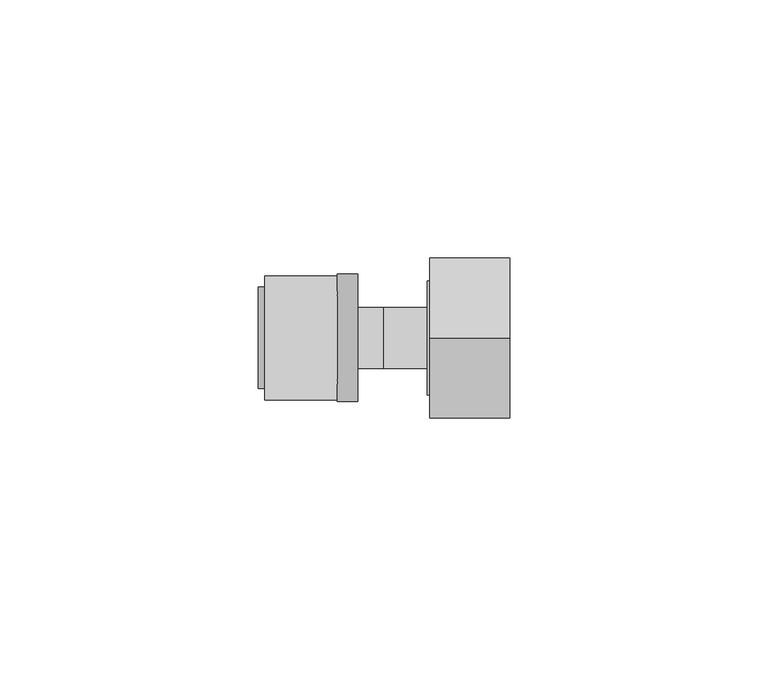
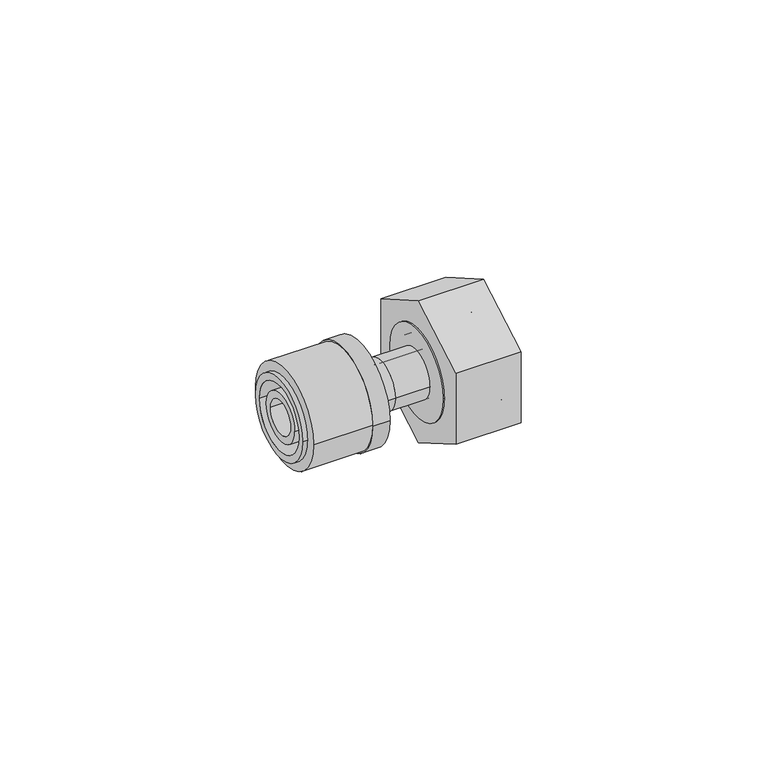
"""IFC4 building model written with IfcOpenShell, lengths in millimetres: pipe fitting geometry, FASTLOC_Adapter with union nut LX : FSL A union nut CZ."""

from ifc_helpers import new_model, si_unit, point, frame, origin, origin_2d, place, context, project, spatial, polyline, circle_curve, trimmed, segment, composite_curve, outline, extrude, source, transform, mapped, element, save
from ifc_brep_helpers import plane_surface, cylinder_surface, revolved_surface, advanced_brep


def pipe_fitting_ce7225c3(model_context):
    return source(origin(), model_context, "Body", "SolidModel", [
        extrude(outline(composite_curve([segment(trimmed(circle_curve(origin_2d(), 12.0), [point((12.0, 0.0))], [point((-12.0, 0.0))], False, "CARTESIAN"), True, "CONTINUOUS"), segment(trimmed(circle_curve(origin_2d(), 12.0), [point((-12.0, 0.0))], [point((12.0, 0.0))], False, "CARTESIAN"), True, "CONTINUOUS")], self_intersect=False), holes=[composite_curve([segment(trimmed(circle_curve(origin_2d(), 8.85), [point((8.85, 0.0))], [point((-8.85, 0.0))], True, "CARTESIAN"), True, "CONTINUOUS"), segment(trimmed(circle_curve(origin_2d(), 8.85), [point((-8.85, 0.0))], [point((8.85, 0.0))], True, "CARTESIAN"), True, "CONTINUOUS")], self_intersect=False)]), frame((-23.0, 0.0, 0.0), z_axis=(1.0, 0.0, 0.0), x_axis=(0.0, 1.0, 0.0)), (0.0, 0.0, 1.0), 14.0),
        advanced_brep(
        [(-9.0, -12.35, 0.0), (-9.0, 12.35, 0.0), (-5.0, 12.35, 0.0), (-5.0, -12.35, 0.0), (-24.3, -9.85, 0.0), (-24.3, 9.85, 0.0), (-9.0, 9.85, 0.0), (-9.0, -9.85, 0.0), (-5.0, -8.15, 0.0), (-5.0, 8.15, 0.0), (-24.3, 8.15, 0.0), (-24.3, -8.15, 0.0)],
        [
            (0, 1, circle_curve(frame((-9.0, 0.0, 0.0), z_axis=(1.0, 0.0, 0.0), x_axis=(0.0, 1.0, 0.0)), 12.35)),
            (1, 2),
            (2, 3, circle_curve(frame((-5.0, 0.0, 0.0), z_axis=(-1.0, 0.0, 0.0), x_axis=(0.0, 1.0, 0.0)), 12.35)),
            (3, 0),
            (4, 5, circle_curve(frame((-24.3, 0.0, 0.0), z_axis=(1.0, 0.0, 0.0), x_axis=(0.0, 1.0, 0.0)), 9.85)),
            (5, 6),
            (6, 7, circle_curve(frame((-9.0, 0.0, 0.0), z_axis=(-1.0, 0.0, 0.0), x_axis=(0.0, 1.0, 0.0)), 9.85)),
            (7, 4),
            (8, 9, circle_curve(frame((-5.0, 0.0, 0.0), z_axis=(1.0, 0.0, 0.0), x_axis=(0.0, 1.0, 0.0)), 8.15)),
            (9, 10),
            (10, 11, circle_curve(frame((-24.3, 0.0, 0.0), z_axis=(-1.0, 0.0, 0.0), x_axis=(0.0, 1.0, 0.0)), 8.15)),
            (11, 8),
            (1, 0, circle_curve(frame((-9.0, 0.0, 0.0), z_axis=(1.0, 0.0, 0.0), x_axis=(0.0, -1.0, 0.0)), 12.35)),
            (3, 2, circle_curve(frame((-5.0, 0.0, 0.0), z_axis=(-1.0, 0.0, 0.0), x_axis=(0.0, -1.0, 0.0)), 12.35)),
            (6, 7, circle_curve(frame((-9.0, 0.0, 0.0), z_axis=(1.0, 0.0, 0.0), x_axis=(0.0, -1.0, 0.0)), 9.85)),
            (5, 4, circle_curve(frame((-24.3, 0.0, 0.0), z_axis=(1.0, 0.0, 0.0), x_axis=(0.0, -1.0, 0.0)), 9.85)),
            (10, 11, circle_curve(frame((-24.3, 0.0, 0.0), z_axis=(1.0, 0.0, 0.0), x_axis=(0.0, -1.0, 0.0)), 8.15)),
            (9, 8, circle_curve(frame((-5.0, 0.0, 0.0), z_axis=(1.0, 0.0, 0.0), x_axis=(0.0, -1.0, 0.0)), 8.15)),
        ],
        [
            cylinder_surface(frame((-5.0, 0.0, 0.0), z_axis=(-1.0, 0.0, 0.0), x_axis=(0.0, 1.0, 0.0)), 12.35),
            cylinder_surface(frame((-5.0, 0.0, 0.0), z_axis=(-1.0, 0.0, 0.0), x_axis=(0.0, 1.0, 0.0)), 9.85),
            revolved_surface(polyline([(-24.3, 8.15, 0.0), (-5.0, 8.15, 0.0)]), (-5.0, 0.0, 0.0), (-1.0, 0.0, 0.0)),
            cylinder_surface(frame((-5.0, 0.0, 0.0), z_axis=(-1.0, 0.0, 0.0), x_axis=(0.0, -1.0, 0.0)), 12.35),
            plane_surface(frame((-9.0, 0.0, 0.0), z_axis=(-1.0, 0.0, 0.0), x_axis=(0.0, -1.0, 0.0))),
            cylinder_surface(frame((-5.0, 0.0, 0.0), z_axis=(-1.0, 0.0, 0.0), x_axis=(0.0, -1.0, 0.0)), 9.85),
            plane_surface(frame((-24.3, 0.0, 0.0), z_axis=(-1.0, 0.0, 0.0), x_axis=(0.0, -1.0, 0.0))),
            revolved_surface(polyline([(-24.3, -8.15, 0.0), (-5.0, -8.15, 0.0)]), (-5.0, 0.0, 0.0), (-1.0, 0.0, 0.0)),
            plane_surface(frame((-5.0, 0.0, 0.0), z_axis=(1.0, 0.0, 0.0), x_axis=(0.0, -1.0, 0.0))),
        ],
        [
            (0, [[1, 2, 3, 4]]),
            (1, [[5, 6, 7, 8]]),
            (2, [[9, 10, 11, 12]]),
            (3, [[13, -4, 14, -2]]),
            (4, [[-13, -1], [15, -7]]),
            (5, [[16, -8, -15, -6]]),
            (6, [[-16, -5], [17, -11]]),
            (7, [[18, -12, -17, -10]]),
            (8, [[-14, -3], [-18, -9]]),
        ],
    ),
        advanced_brep(
        [(-9.0, 5.9, 0.0), (-9.0, -5.9, 0.0), (-24.0, -5.9, 0.0), (-24.0, 5.9, 0.0), (-6.3, 6.9, 0.0), (-6.3, -6.9, 0.0), (-9.0, -6.9, 0.0), (-9.0, 6.9, 0.0), (0.0, 5.9, 0.0), (0.0, -5.9, 0.0), (-6.3, -5.9, 0.0), (-6.3, 5.9, 0.0), (-24.0, 4.15, 0.0), (-24.0, -4.15, 0.0), (0.0, -4.15, 0.0), (0.0, 4.15, 0.0)],
        [
            (0, 1, circle_curve(frame((-9.0, 0.0, 0.0), z_axis=(-1.0, 0.0, 0.0), x_axis=(0.0, -1.0, 0.0)), 5.9)),
            (1, 2),
            (2, 3, circle_curve(frame((-24.0, 0.0, 0.0), z_axis=(1.0, 0.0, 0.0), x_axis=(0.0, -1.0, 0.0)), 5.9)),
            (3, 0),
            (4, 5, circle_curve(frame((-6.3, 0.0, 0.0), z_axis=(-1.0, 0.0, 0.0), x_axis=(0.0, -1.0, 0.0)), 6.9)),
            (5, 6),
            (6, 7, circle_curve(frame((-9.0, 0.0, 0.0), z_axis=(1.0, 0.0, 0.0), x_axis=(0.0, -1.0, 0.0)), 6.9)),
            (7, 4),
            (8, 9, circle_curve(frame((0.0, 0.0, 0.0), z_axis=(-1.0, 0.0, 0.0), x_axis=(0.0, -1.0, 0.0)), 5.9)),
            (9, 10),
            (10, 11, circle_curve(frame((-6.3, 0.0, 0.0), z_axis=(1.0, 0.0, 0.0), x_axis=(0.0, -1.0, 0.0)), 5.9)),
            (11, 8),
            (12, 13, circle_curve(frame((-24.0, 0.0, 0.0), z_axis=(-1.0, 0.0, 0.0), x_axis=(0.0, -1.0, 0.0)), 4.15)),
            (13, 14),
            (14, 15, circle_curve(frame((0.0, 0.0, 0.0), z_axis=(1.0, 0.0, 0.0), x_axis=(0.0, -1.0, 0.0)), 4.15)),
            (15, 12),
            (2, 3, circle_curve(frame((-24.0, 0.0, 0.0), z_axis=(-1.0, 0.0, 0.0), x_axis=(0.0, 1.0, 0.0)), 5.9)),
            (12, 13, circle_curve(frame((-24.0, 0.0, 0.0), z_axis=(1.0, 0.0, 0.0), x_axis=(0.0, 1.0, 0.0)), 4.15)),
            (1, 0, circle_curve(frame((-9.0, 0.0, 0.0), z_axis=(-1.0, 0.0, 0.0), x_axis=(0.0, 1.0, 0.0)), 5.9)),
            (6, 7, circle_curve(frame((-9.0, 0.0, 0.0), z_axis=(-1.0, 0.0, 0.0), x_axis=(0.0, 1.0, 0.0)), 6.9)),
            (5, 4, circle_curve(frame((-6.3, 0.0, 0.0), z_axis=(-1.0, 0.0, 0.0), x_axis=(0.0, 1.0, 0.0)), 6.9)),
            (10, 11, circle_curve(frame((-6.3, 0.0, 0.0), z_axis=(-1.0, 0.0, 0.0), x_axis=(0.0, 1.0, 0.0)), 5.9)),
            (9, 8, circle_curve(frame((0.0, 0.0, 0.0), z_axis=(-1.0, 0.0, 0.0), x_axis=(0.0, 1.0, 0.0)), 5.9)),
            (14, 15, circle_curve(frame((0.0, 0.0, 0.0), z_axis=(-1.0, 0.0, 0.0), x_axis=(0.0, 1.0, 0.0)), 4.15)),
        ],
        [
            cylinder_surface(frame((0.0, 0.0, 0.0), z_axis=(1.0, 0.0, 0.0), x_axis=(0.0, -1.0, 0.0)), 5.9),
            cylinder_surface(frame((0.0, 0.0, 0.0), z_axis=(1.0, 0.0, 0.0), x_axis=(0.0, -1.0, 0.0)), 6.9),
            revolved_surface(polyline([(0.0, -4.15, 0.0), (-24.0, -4.15, 0.0)]), (0.0, 0.0, 0.0), (1.0, 0.0, 0.0)),
            plane_surface(frame((-24.0, 0.0, 0.0), z_axis=(-1.0, 0.0, 0.0), x_axis=(0.0, 1.0, 0.0))),
            cylinder_surface(frame((0.0, 0.0, 0.0), z_axis=(1.0, 0.0, 0.0), x_axis=(0.0, 1.0, 0.0)), 5.9),
            plane_surface(frame((-9.0, 0.0, 0.0), z_axis=(-1.0, 0.0, 0.0), x_axis=(0.0, 1.0, 0.0))),
            cylinder_surface(frame((0.0, 0.0, 0.0), z_axis=(1.0, 0.0, 0.0), x_axis=(0.0, 1.0, 0.0)), 6.9),
            plane_surface(frame((-6.3, 0.0, 0.0), z_axis=(1.0, 0.0, 0.0), x_axis=(0.0, 1.0, 0.0))),
            plane_surface(frame((0.0, 0.0, 0.0), z_axis=(1.0, 0.0, 0.0), x_axis=(0.0, 1.0, 0.0))),
            revolved_surface(polyline([(0.0, 4.15, 0.0), (-24.0, 4.15, 0.0)]), (0.0, 0.0, 0.0), (1.0, 0.0, 0.0)),
        ],
        [
            (0, [[1, 2, 3, 4]]),
            (1, [[5, 6, 7, 8]]),
            (0, [[9, 10, 11, 12]]),
            (2, [[13, 14, 15, 16]]),
            (3, [[17, -3], [18, -13]]),
            (4, [[19, -4, -17, -2]]),
            (5, [[20, -7], [-19, -1]]),
            (6, [[21, -8, -20, -6]]),
            (7, [[-21, -5], [22, -11]]),
            (4, [[23, -12, -22, -10]]),
            (8, [[-23, -9], [24, -15]]),
            (9, [[-18, -16, -24, -14]]),
        ],
    ),
        extrude(outline(polyline([(0.0, -17.8978583), (-15.5, -8.9489292), (-15.5, 8.9489292), (0.0, 17.8978583), (15.5, 8.9489292), (15.5, -8.9489292), (0.0, -17.8978583)]), holes=[composite_curve([segment(trimmed(circle_curve(origin_2d(), 8.15), [point((-8.15, 0.0))], [point((8.15, 0.0))], True, "CARTESIAN"), True, "CONTINUOUS"), segment(trimmed(circle_curve(origin_2d(), 8.15), [point((8.15, 0.0))], [point((-8.15, 0.0))], True, "CARTESIAN"), True, "CONTINUOUS")], self_intersect=False)]), frame((9.0, 0.0, 0.0), z_axis=(1.0, 0.0, 0.0), x_axis=(0.0, 1.0, 0.0)), (0.0, 0.0, 1.0), 15.5),
        advanced_brep(
        [(24.5, 11.05, 0.0), (24.5, -11.05, 0.0), (8.5, -11.05, 0.0), (8.5, 11.05, 0.0), (12.0, 8.15, 0.0), (12.0, -8.15, 0.0), (24.5, -8.15, 0.0), (24.5, 8.15, 0.0), (8.5, 4.65, 0.0), (8.5, -4.65, 0.0), (12.0, -4.65, 0.0), (12.0, 4.65, 0.0)],
        [
            (0, 1, circle_curve(frame((24.5, 0.0, 0.0), z_axis=(-1.0, 0.0, 0.0), x_axis=(0.0, -1.0, 0.0)), 11.05)),
            (1, 2),
            (2, 3, circle_curve(frame((8.5, 0.0, 0.0), z_axis=(1.0, 0.0, 0.0), x_axis=(0.0, -1.0, 0.0)), 11.05)),
            (3, 0),
            (4, 5, circle_curve(frame((12.0, 0.0, 0.0), z_axis=(-1.0, 0.0, 0.0), x_axis=(0.0, -1.0, 0.0)), 8.15)),
            (5, 6),
            (6, 7, circle_curve(frame((24.5, 0.0, 0.0), z_axis=(1.0, 0.0, 0.0), x_axis=(0.0, -1.0, 0.0)), 8.15)),
            (7, 4),
            (8, 9, circle_curve(frame((8.5, 0.0, 0.0), z_axis=(-1.0, 0.0, 0.0), x_axis=(0.0, -1.0, 0.0)), 4.65)),
            (9, 10),
            (10, 11, circle_curve(frame((12.0, 0.0, 0.0), z_axis=(1.0, 0.0, 0.0), x_axis=(0.0, -1.0, 0.0)), 4.65)),
            (11, 8),
            (1, 0, circle_curve(frame((24.5, 0.0, 0.0), z_axis=(-1.0, 0.0, 0.0), x_axis=(0.0, 1.0, 0.0)), 11.05)),
            (3, 2, circle_curve(frame((8.5, 0.0, 0.0), z_axis=(1.0, 0.0, 0.0), x_axis=(0.0, 1.0, 0.0)), 11.05)),
            (6, 7, circle_curve(frame((24.5, 0.0, 0.0), z_axis=(-1.0, 0.0, 0.0), x_axis=(0.0, 1.0, 0.0)), 8.15)),
            (5, 4, circle_curve(frame((12.0, 0.0, 0.0), z_axis=(-1.0, 0.0, 0.0), x_axis=(0.0, 1.0, 0.0)), 8.15)),
            (10, 11, circle_curve(frame((12.0, 0.0, 0.0), z_axis=(-1.0, 0.0, 0.0), x_axis=(0.0, 1.0, 0.0)), 4.65)),
            (9, 8, circle_curve(frame((8.5, 0.0, 0.0), z_axis=(-1.0, 0.0, 0.0), x_axis=(0.0, 1.0, 0.0)), 4.65)),
        ],
        [
            cylinder_surface(frame((0.0, 0.0, 0.0), z_axis=(1.0, 0.0, 0.0), x_axis=(0.0, -1.0, 0.0)), 11.05),
            revolved_surface(polyline([(24.5, -8.15, 0.0), (12.0, -8.15, 0.0)]), (0.0, 0.0, 0.0), (1.0, 0.0, 0.0)),
            revolved_surface(polyline([(12.0, -4.65, 0.0), (8.5, -4.65, 0.0)]), (0.0, 0.0, 0.0), (1.0, 0.0, 0.0)),
            cylinder_surface(frame((0.0, 0.0, 0.0), z_axis=(1.0, 0.0, 0.0), x_axis=(0.0, 1.0, 0.0)), 11.05),
            plane_surface(frame((24.5, 0.0, 0.0), z_axis=(1.0, 0.0, 0.0), x_axis=(0.0, 1.0, 0.0))),
            revolved_surface(polyline([(24.5, 8.15, 0.0), (12.0, 8.15, 0.0)]), (0.0, 0.0, 0.0), (1.0, 0.0, 0.0)),
            plane_surface(frame((12.0, 0.0, 0.0), z_axis=(1.0, 0.0, 0.0), x_axis=(0.0, 1.0, 0.0))),
            revolved_surface(polyline([(12.0, 4.65, 0.0), (8.5, 4.65, 0.0)]), (0.0, 0.0, 0.0), (1.0, 0.0, 0.0)),
            plane_surface(frame((8.5, 0.0, 0.0), z_axis=(-1.0, 0.0, 0.0), x_axis=(0.0, 1.0, 0.0))),
        ],
        [
            (0, [[1, 2, 3, 4]]),
            (1, [[5, 6, 7, 8]]),
            (2, [[9, 10, 11, 12]]),
            (3, [[13, -4, 14, -2]]),
            (4, [[-13, -1], [15, -7]]),
            (5, [[16, -8, -15, -6]]),
            (6, [[-16, -5], [17, -11]]),
            (7, [[18, -12, -17, -10]]),
            (8, [[-14, -3], [-18, -9]]),
        ],
    ),
        advanced_brep(
        [(12.0, 5.9, 0.0), (12.0, -5.9, 0.0), (0.0, -5.9, 0.0), (0.0, 5.9, 0.0), (14.0, 10.0, 0.0), (14.0, -10.0, 0.0), (12.0, -10.0, 0.0), (12.0, 10.0, 0.0), (1.4730817, 4.15, 0.0), (1.4730817, -4.15, 0.0), (14.0, -4.15, 0.0), (14.0, 4.15, 0.0), (0.0, 1.9764556, 0.0), (0.0, -1.9764556, 0.0), (1.4730817, -1.9764556, 0.0), (1.4730817, 1.9764556, 0.0)],
        [
            (0, 1, circle_curve(frame((12.0, 0.0, 0.0), z_axis=(-1.0, 0.0, 0.0), x_axis=(0.0, -1.0, 0.0)), 5.9)),
            (1, 2),
            (2, 3, circle_curve(frame((0.0, 0.0, 0.0), z_axis=(1.0, 0.0, 0.0), x_axis=(0.0, -1.0, 0.0)), 5.9)),
            (3, 0),
            (4, 5, circle_curve(frame((14.0, 0.0, 0.0), z_axis=(-1.0, 0.0, 0.0), x_axis=(0.0, -1.0, 0.0)), 10.0)),
            (5, 6),
            (6, 7, circle_curve(frame((12.0, 0.0, 0.0), z_axis=(1.0, 0.0, 0.0), x_axis=(0.0, -1.0, 0.0)), 10.0)),
            (7, 4),
            (8, 9, circle_curve(frame((1.4730817, 0.0, 0.0), z_axis=(-1.0, 0.0, 0.0), x_axis=(0.0, -1.0, 0.0)), 4.15)),
            (9, 10),
            (10, 11, circle_curve(frame((14.0, 0.0, 0.0), z_axis=(1.0, 0.0, 0.0), x_axis=(0.0, -1.0, 0.0)), 4.15)),
            (11, 8),
            (12, 13, circle_curve(frame((0.0, 0.0, 0.0), z_axis=(-1.0, 0.0, 0.0), x_axis=(0.0, -1.0, 0.0)), 1.9764556)),
            (13, 14),
            (14, 15, circle_curve(frame((1.4730817, 0.0, 0.0), z_axis=(1.0, 0.0, 0.0), x_axis=(0.0, -1.0, 0.0)), 1.9764556)),
            (15, 12),
            (2, 3, circle_curve(frame((0.0, 0.0, 0.0), z_axis=(-1.0, 0.0, 0.0), x_axis=(0.0, 1.0, 0.0)), 5.9)),
            (12, 13, circle_curve(frame((0.0, 0.0, 0.0), z_axis=(1.0, 0.0, 0.0), x_axis=(0.0, 1.0, 0.0)), 1.9764556)),
            (1, 0, circle_curve(frame((12.0, 0.0, 0.0), z_axis=(-1.0, 0.0, 0.0), x_axis=(0.0, 1.0, 0.0)), 5.9)),
            (6, 7, circle_curve(frame((12.0, 0.0, 0.0), z_axis=(-1.0, 0.0, 0.0), x_axis=(0.0, 1.0, 0.0)), 10.0)),
            (5, 4, circle_curve(frame((14.0, 0.0, 0.0), z_axis=(-1.0, 0.0, 0.0), x_axis=(0.0, 1.0, 0.0)), 10.0)),
            (10, 11, circle_curve(frame((14.0, 0.0, 0.0), z_axis=(-1.0, 0.0, 0.0), x_axis=(0.0, 1.0, 0.0)), 4.15)),
            (9, 8, circle_curve(frame((1.4730817, 0.0, 0.0), z_axis=(-1.0, 0.0, 0.0), x_axis=(0.0, 1.0, 0.0)), 4.15)),
            (14, 15, circle_curve(frame((1.4730817, 0.0, 0.0), z_axis=(-1.0, 0.0, 0.0), x_axis=(0.0, 1.0, 0.0)), 1.9764556)),
        ],
        [
            cylinder_surface(frame((0.0, 0.0, 0.0), z_axis=(1.0, 0.0, 0.0), x_axis=(0.0, -1.0, 0.0)), 5.9),
            cylinder_surface(frame((0.0, 0.0, 0.0), z_axis=(1.0, 0.0, 0.0), x_axis=(0.0, -1.0, 0.0)), 10.0),
            revolved_surface(polyline([(14.0, -4.15, 0.0), (1.4730817, -4.15, 0.0)]), (0.0, 0.0, 0.0), (1.0, 0.0, 0.0)),
            revolved_surface(polyline([(1.4730817, -1.9764556, 0.0), (0.0, -1.9764556, 0.0)]), (0.0, 0.0, 0.0), (1.0, 0.0, 0.0)),
            plane_surface(frame((0.0, 0.0, 0.0), z_axis=(-1.0, 0.0, 0.0), x_axis=(0.0, 1.0, 0.0))),
            cylinder_surface(frame((0.0, 0.0, 0.0), z_axis=(1.0, 0.0, 0.0), x_axis=(0.0, 1.0, 0.0)), 5.9),
            plane_surface(frame((12.0, 0.0, 0.0), z_axis=(-1.0, 0.0, 0.0), x_axis=(0.0, 1.0, 0.0))),
            cylinder_surface(frame((0.0, 0.0, 0.0), z_axis=(1.0, 0.0, 0.0), x_axis=(0.0, 1.0, 0.0)), 10.0),
            plane_surface(frame((14.0, 0.0, 0.0), z_axis=(1.0, 0.0, 0.0), x_axis=(0.0, 1.0, 0.0))),
            revolved_surface(polyline([(14.0, 4.15, 0.0), (1.4730817, 4.15, 0.0)]), (0.0, 0.0, 0.0), (1.0, 0.0, 0.0)),
            plane_surface(frame((1.4730817, 0.0, 0.0), z_axis=(1.0, 0.0, 0.0), x_axis=(0.0, 1.0, 0.0))),
            revolved_surface(polyline([(1.4730817, 1.9764556, 0.0), (0.0, 1.9764556, 0.0)]), (0.0, 0.0, 0.0), (1.0, 0.0, 0.0)),
        ],
        [
            (0, [[1, 2, 3, 4]]),
            (1, [[5, 6, 7, 8]]),
            (2, [[9, 10, 11, 12]]),
            (3, [[13, 14, 15, 16]]),
            (4, [[17, -3], [18, -13]]),
            (5, [[19, -4, -17, -2]]),
            (6, [[20, -7], [-19, -1]]),
            (7, [[21, -8, -20, -6]]),
            (8, [[-21, -5], [22, -11]]),
            (9, [[23, -12, -22, -10]]),
            (10, [[-23, -9], [24, -15]]),
            (11, [[-18, -16, -24, -14]]),
        ],
    ),
    ])


if __name__ == "__main__":
    model = new_model("IFC4")
    model_context = context("Model", 3, world=origin())
    ifc_project = project(units=[si_unit("LENGTHUNIT", "METRE", prefix="MILLI")], contexts=[model_context])
    site = spatial("IfcSite", under=ifc_project)
    building = spatial("IfcBuilding", under=site)
    placement = place(None, origin())
    pipe_fitting_shape = pipe_fitting_ce7225c3(model_context)
    element("IfcPipeFitting", 1, ObjectType="FASTLOC_Adapter with union nut LX : FSL A union nut CZ", at=placement, inside=building, context=model_context, shape_type="MappedRepresentation", body=[
        mapped(pipe_fitting_shape, transform((0.0, 0.0, 0.0), x_axis=(1.0, 0.0, 0.0), y_axis=(0.0, 1.0, 0.0), z_axis=(0.0, 0.0, 1.0))),
    ])
    save(model, "model.ifc")
